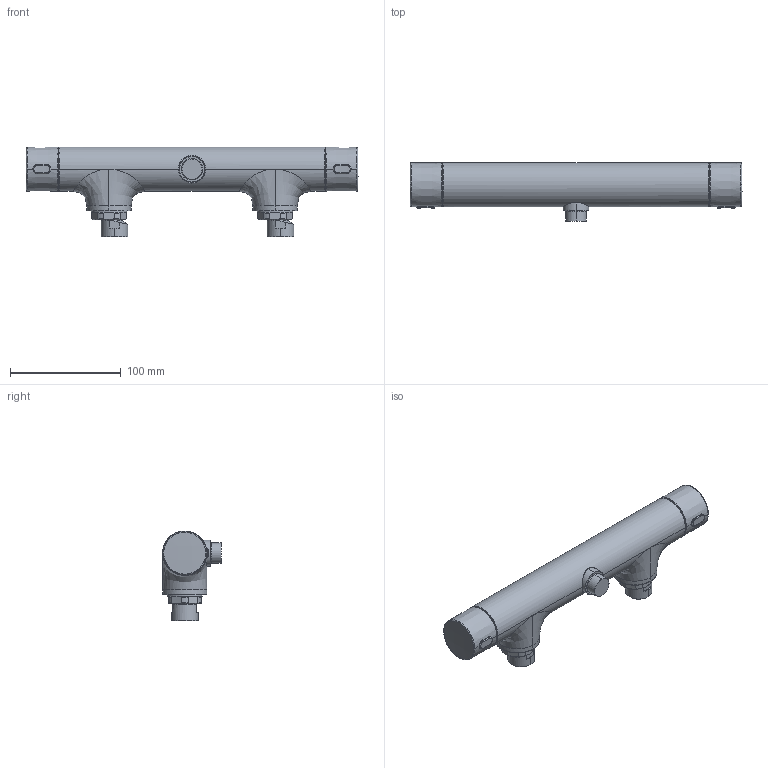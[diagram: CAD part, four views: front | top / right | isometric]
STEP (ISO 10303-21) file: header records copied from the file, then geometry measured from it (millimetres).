
FILE_DESCRIPTION (( 'STEP AP203' ), '1' );
FILE_NAME ('4750(2024).STEP', '2024-01-12T09:52:19', ( '' ), ( '' ), 'SwSTEP 2.0', 'SolidWorks 2016', '' );
FILE_SCHEMA (( 'CONFIG_CONTROL_DESIGN' ));
Length unit declared in the file: millimetre
Products named in the file (1): 4750(2024)
Bounding box: 299.88 x 53.1 x 81.2 mm (x, y, z)
Volume: 463101.9 mm3; surface area: 54832.8 mm2
Topology: 1 solids, 1 shells, 158 faces, 428 edges, 280 vertices
Faces by surface type: cylinder 48, bspline 45, plane 39, cone 24, torus 2
Entity records: 10623 total; most frequent: CARTESIAN_POINT 6963, ORIENTED_EDGE 848, DIRECTION 646, EDGE_CURVE 424, VERTEX_POINT 280, AXIS2_PLACEMENT_3D 274, EDGE_LOOP 170, CIRCLE 160
